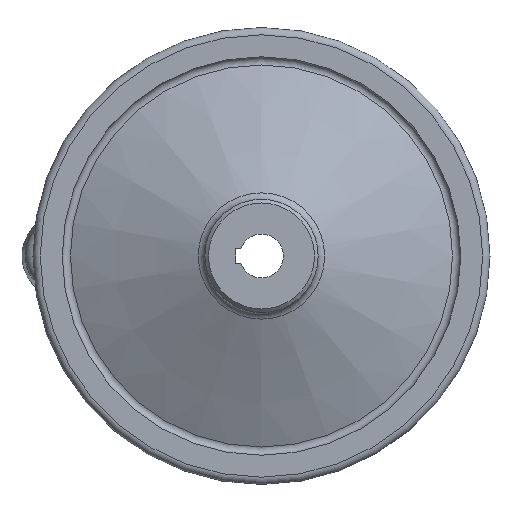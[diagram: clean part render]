
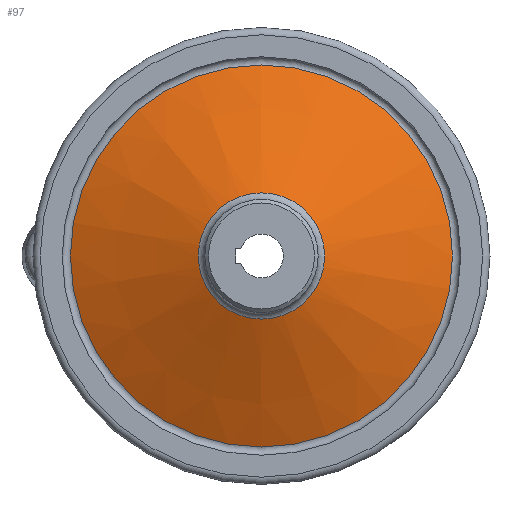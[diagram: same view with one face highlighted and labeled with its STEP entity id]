
A CAD part, left-side view. The second image highlights one B-rep face of the part: STEP entity #97.
In plain terms, the highlighted conical face has half-angle 66 degrees and reference radius 17.28 mm.
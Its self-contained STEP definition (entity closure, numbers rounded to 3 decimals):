
#97 = ADVANCED_FACE( '', ( #170, #171 ), #172, .T. );
#170 = FACE_OUTER_BOUND( '', #260, .T. );
#171 = FACE_BOUND( '', #261, .T. );
#172 = CONICAL_SURFACE( '', #262, 17.28, 1.152 );
#260 = EDGE_LOOP( '', ( #412 ) );
#261 = EDGE_LOOP( '', ( #413 ) );
#262 = AXIS2_PLACEMENT_3D( '', #414, #415, #416 );
#412 = ORIENTED_EDGE( '', *, *, #488, .T. );
#413 = ORIENTED_EDGE( '', *, *, #489, .F. );
#414 = CARTESIAN_POINT( '', ( 9.792, 0., 0. ) );
#415 = DIRECTION( '', ( 1., 0., 0. ) );
#416 = DIRECTION( '', ( 0., 0., -1. ) );
#488 = EDGE_CURVE( '', #552, #552, #553, .T. );
#489 = EDGE_CURVE( '', #554, #554, #555, .T. );
#552 = VERTEX_POINT( '', #634 );
#553 = CIRCLE( '', #635, 52.249 );
#554 = VERTEX_POINT( '', #636 );
#555 = CIRCLE( '', #637, 17.28 );
#634 = CARTESIAN_POINT( '', ( 25.362, 0., 52.249 ) );
#635 = AXIS2_PLACEMENT_3D( '', #720, #721, #722 );
#636 = CARTESIAN_POINT( '', ( 9.792, 0., 17.28 ) );
#637 = AXIS2_PLACEMENT_3D( '', #723, #724, #725 );
#720 = CARTESIAN_POINT( '', ( 25.362, 0., 0. ) );
#721 = DIRECTION( '', ( -1., 0., 0. ) );
#722 = DIRECTION( '', ( 0., 0., 1. ) );
#723 = CARTESIAN_POINT( '', ( 9.792, 0., 0. ) );
#724 = DIRECTION( '', ( -1., 0., 0. ) );
#725 = DIRECTION( '', ( 0., 0., 1. ) );
